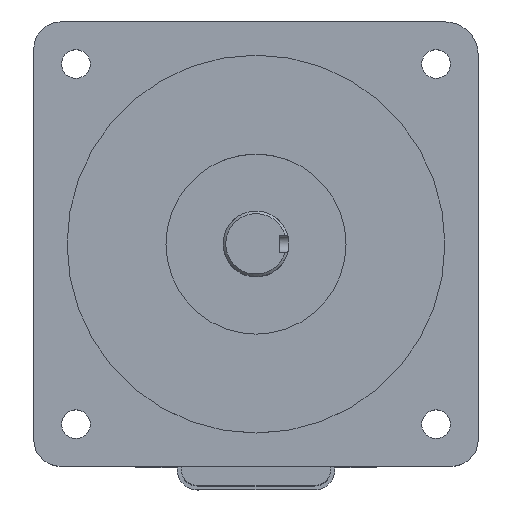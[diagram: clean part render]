
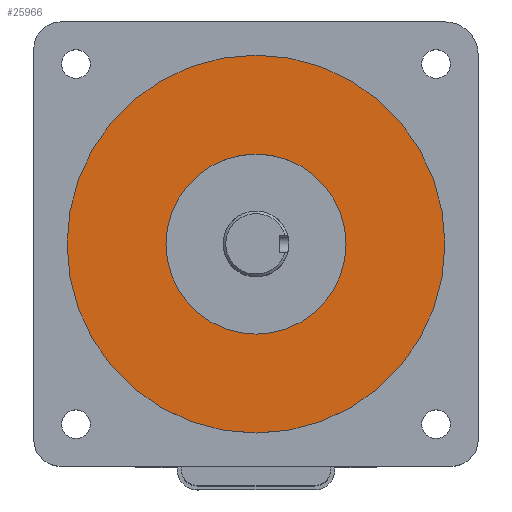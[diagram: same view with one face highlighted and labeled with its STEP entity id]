
A CAD part, top view. The second image highlights one B-rep face of the part: STEP entity #25966.
In plain terms, the highlighted planar face has unit normal (0, 0, 1).
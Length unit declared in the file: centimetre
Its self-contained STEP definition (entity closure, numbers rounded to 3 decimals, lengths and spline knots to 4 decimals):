
#9727=VERTEX_POINT('',#74460);
#9728=VERTEX_POINT('',#74463);
#13586=EDGE_CURVE('',#9727,#9727,#33051,.T.);
#13587=EDGE_CURVE('',#9728,#9728,#33052,.T.);
#21366=ORIENTED_EDGE('',*,*,#13587,.F.);
#21367=ORIENTED_EDGE('',*,*,#13586,.F.);
#22940=EDGE_LOOP('',(#21366));
#22941=EDGE_LOOP('',(#21367));
#24514=FACE_BOUND('',#22940,.T.);
#24515=FACE_BOUND('',#22941,.T.);
#25966=ADVANCED_FACE('',(#24514,#24515),#54172,.T.);
#33051=CIRCLE('',#50094,3.6513);
#33052=CIRCLE('',#50096,1.7399);
#50094=AXIS2_PLACEMENT_3D('',#74459,#79630,#79631);
#50096=AXIS2_PLACEMENT_3D('',#74462,#79634,#79635);
#50097=AXIS2_PLACEMENT_3D('',#74464,#79636,$);
#54172=PLANE('',#50097);
#74459=CARTESIAN_POINT('',(0.,0.,0.15));
#74460=CARTESIAN_POINT('',(3.6513,0.,0.15));
#74462=CARTESIAN_POINT('',(0.,0.,0.15));
#74463=CARTESIAN_POINT('',(1.7399,0.,0.15));
#74464=CARTESIAN_POINT('',(0.,0.,0.15));
#79630=DIRECTION('',(0.,0.,-1.));
#79631=DIRECTION('',(3.651,0.,0.));
#79634=DIRECTION('',(0.,0.,1.));
#79635=DIRECTION('',(1.74,0.,0.));
#79636=DIRECTION('',(0.,0.,1.));
